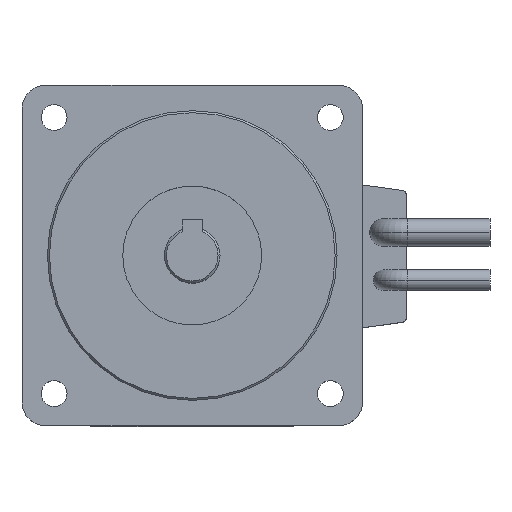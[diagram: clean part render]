
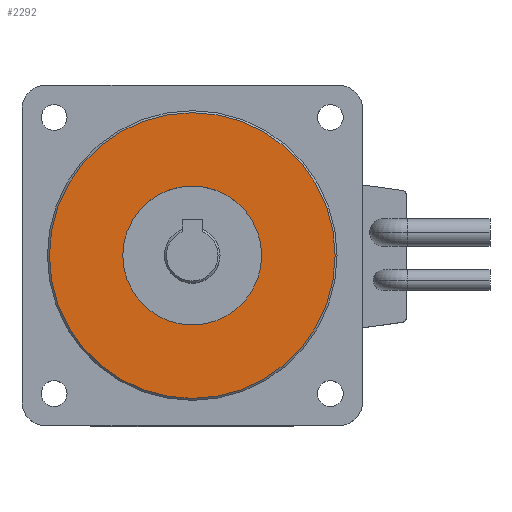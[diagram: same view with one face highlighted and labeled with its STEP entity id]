
A CAD part, top view. The second image highlights one B-rep face of the part: STEP entity #2292.
In plain terms, the highlighted planar face has unit normal (0, 0, 1).
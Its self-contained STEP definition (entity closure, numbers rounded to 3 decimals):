
#14 = CARTESIAN_POINT ( 'NONE',  ( -36., 0., 140.1 ) ) ;
#544 = DIRECTION ( 'NONE',  ( 1., 0., 0. ) ) ;
#758 = CARTESIAN_POINT ( 'NONE',  ( 36., 0., 140.1 ) ) ;
#805 = AXIS2_PLACEMENT_3D ( 'NONE', #1585, #2229, #544 ) ;
#860 = DIRECTION ( 'NONE',  ( -1., 0., 0. ) ) ;
#1040 = ORIENTED_EDGE ( 'NONE', *, *, #2480, .T. ) ;
#1051 = AXIS2_PLACEMENT_3D ( 'NONE', #2549, #2889, #860 ) ;
#1074 = CIRCLE ( 'NONE', #4178, 36. ) ;
#1125 = CARTESIAN_POINT ( 'NONE',  ( 0., 0., 140.1 ) ) ;
#1162 = CIRCLE ( 'NONE', #805, 36. ) ;
#1166 = DIRECTION ( 'NONE',  ( 0., 0., 1. ) ) ;
#1330 = CIRCLE ( 'NONE', #4298, 17.5 ) ;
#1411 = CARTESIAN_POINT ( 'NONE',  ( 17.5, 0., 140.1 ) ) ;
#1480 = DIRECTION ( 'NONE',  ( 0., 0., -1. ) ) ;
#1509 = ORIENTED_EDGE ( 'NONE', *, *, #1965, .T. ) ;
#1585 = CARTESIAN_POINT ( 'NONE',  ( 0., 0., 140.1 ) ) ;
#1719 = EDGE_LOOP ( 'NONE', ( #3444, #1509 ) ) ;
#1771 = FACE_BOUND ( 'NONE', #1719, .T. ) ;
#1790 = PLANE ( 'NONE',  #2042 ) ;
#1965 = EDGE_CURVE ( 'NONE', #3188, #2777, #2751, .T. ) ;
#2042 = AXIS2_PLACEMENT_3D ( 'NONE', #1125, #1166, #3110 ) ;
#2102 = CARTESIAN_POINT ( 'NONE',  ( -17.5, 0., 140.1 ) ) ;
#2108 = DIRECTION ( 'NONE',  ( -1., 0., 0. ) ) ;
#2204 = EDGE_CURVE ( 'NONE', #2777, #3188, #1330, .T. ) ;
#2229 = DIRECTION ( 'NONE',  ( 0., 0., 1. ) ) ;
#2292 = ADVANCED_FACE ( 'NONE', ( #3838, #1771 ), #1790, .T. ) ;
#2306 = VERTEX_POINT ( 'NONE', #758 ) ;
#2480 = EDGE_CURVE ( 'NONE', #2306, #3690, #1162, .T. ) ;
#2549 = CARTESIAN_POINT ( 'NONE',  ( 0., 0., 140.1 ) ) ;
#2751 = CIRCLE ( 'NONE', #1051, 17.5 ) ;
#2777 = VERTEX_POINT ( 'NONE', #2102 ) ;
#2848 = CARTESIAN_POINT ( 'NONE',  ( 0., 0., 140.1 ) ) ;
#2889 = DIRECTION ( 'NONE',  ( 0., 0., -1. ) ) ;
#3110 = DIRECTION ( 'NONE',  ( 1., 0., 0. ) ) ;
#3112 = CARTESIAN_POINT ( 'NONE',  ( 0., 0., 140.1 ) ) ;
#3151 = DIRECTION ( 'NONE',  ( 1., 0., 0. ) ) ;
#3188 = VERTEX_POINT ( 'NONE', #1411 ) ;
#3345 = ORIENTED_EDGE ( 'NONE', *, *, #3851, .T. ) ;
#3444 = ORIENTED_EDGE ( 'NONE', *, *, #2204, .T. ) ;
#3451 = DIRECTION ( 'NONE',  ( 0., 0., 1. ) ) ;
#3543 = EDGE_LOOP ( 'NONE', ( #3345, #1040 ) ) ;
#3690 = VERTEX_POINT ( 'NONE', #14 ) ;
#3838 = FACE_OUTER_BOUND ( 'NONE', #3543, .T. ) ;
#3851 = EDGE_CURVE ( 'NONE', #3690, #2306, #1074, .T. ) ;
#4178 = AXIS2_PLACEMENT_3D ( 'NONE', #3112, #3451, #3151 ) ;
#4298 = AXIS2_PLACEMENT_3D ( 'NONE', #2848, #1480, #2108 ) ;
